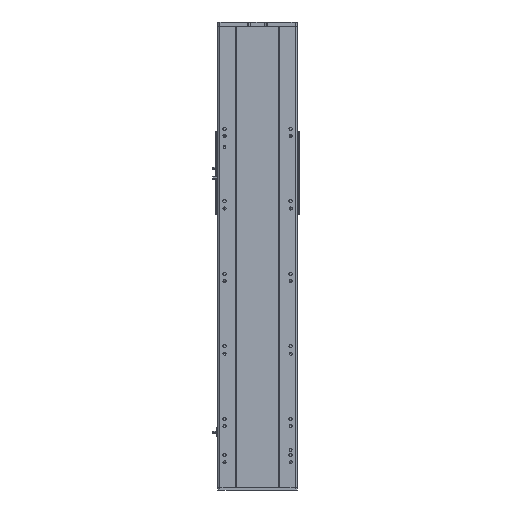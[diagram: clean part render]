
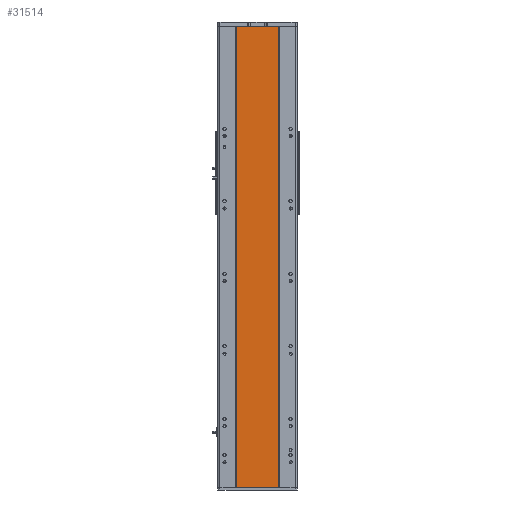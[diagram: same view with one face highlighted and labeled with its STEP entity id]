
A CAD part, front view. The second image highlights one B-rep face of the part: STEP entity #31514.
In plain terms, the highlighted planar face has unit normal (0, -1, 0).
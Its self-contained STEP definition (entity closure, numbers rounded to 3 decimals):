
#600 = DIRECTION ( 'NONE',  ( 0., 0., -1. ) ) ;
#2465 = VECTOR ( 'NONE', #20088, 1000. ) ;
#4920 = DIRECTION ( 'NONE',  ( -1., 0., 0. ) ) ;
#5437 = VERTEX_POINT ( 'NONE', #19059 ) ;
#6427 = VECTOR ( 'NONE', #27930, 1000. ) ;
#6719 = LINE ( 'NONE', #29792, #37300 ) ;
#7266 = AXIS2_PLACEMENT_3D ( 'NONE', #7756, #28397, #4920 ) ;
#7756 = CARTESIAN_POINT ( 'NONE',  ( -59., 1., 635.5 ) ) ;
#8076 = ORIENTED_EDGE ( 'NONE', *, *, #14319, .T. ) ;
#8580 = CARTESIAN_POINT ( 'NONE',  ( -59., 1., -635.5 ) ) ;
#10597 = EDGE_CURVE ( 'NONE', #27525, #5437, #6719, .T. ) ;
#13743 = CARTESIAN_POINT ( 'NONE',  ( -59., 1., 635.5 ) ) ;
#14319 = EDGE_CURVE ( 'NONE', #5437, #16068, #35896, .T. ) ;
#15089 = FACE_OUTER_BOUND ( 'NONE', #34409, .T. ) ;
#16068 = VERTEX_POINT ( 'NONE', #24892 ) ;
#19059 = CARTESIAN_POINT ( 'NONE',  ( -59., 1., -635.5 ) ) ;
#20088 = DIRECTION ( 'NONE',  ( 0., 0., -1. ) ) ;
#20266 = LINE ( 'NONE', #25962, #2465 ) ;
#21608 = ORIENTED_EDGE ( 'NONE', *, *, #35667, .F. ) ;
#21958 = CARTESIAN_POINT ( 'NONE',  ( -59., 1., 635.5 ) ) ;
#23370 = DIRECTION ( 'NONE',  ( 1., 0., 0. ) ) ;
#24892 = CARTESIAN_POINT ( 'NONE',  ( 59., 1., -635.5 ) ) ;
#25496 = CARTESIAN_POINT ( 'NONE',  ( 59., 1., 635.5 ) ) ;
#25962 = CARTESIAN_POINT ( 'NONE',  ( 59., 1., 635.5 ) ) ;
#26031 = LINE ( 'NONE', #21958, #6427 ) ;
#26842 = ORIENTED_EDGE ( 'NONE', *, *, #37489, .F. ) ;
#27032 = VERTEX_POINT ( 'NONE', #25496 ) ;
#27525 = VERTEX_POINT ( 'NONE', #13743 ) ;
#27679 = VECTOR ( 'NONE', #23370, 1000. ) ;
#27930 = DIRECTION ( 'NONE',  ( 1., 0., 0. ) ) ;
#28397 = DIRECTION ( 'NONE',  ( 0., 1., 0. ) ) ;
#29792 = CARTESIAN_POINT ( 'NONE',  ( -59., 1., 635.5 ) ) ;
#31514 = ADVANCED_FACE ( 'NONE', ( #15089 ), #33987, .F. ) ;
#33987 = PLANE ( 'NONE',  #7266 ) ;
#34139 = ORIENTED_EDGE ( 'NONE', *, *, #10597, .T. ) ;
#34409 = EDGE_LOOP ( 'NONE', ( #8076, #21608, #26842, #34139 ) ) ;
#35667 = EDGE_CURVE ( 'NONE', #27032, #16068, #20266, .T. ) ;
#35896 = LINE ( 'NONE', #8580, #27679 ) ;
#37300 = VECTOR ( 'NONE', #600, 1000. ) ;
#37489 = EDGE_CURVE ( 'NONE', #27525, #27032, #26031, .T. ) ;
